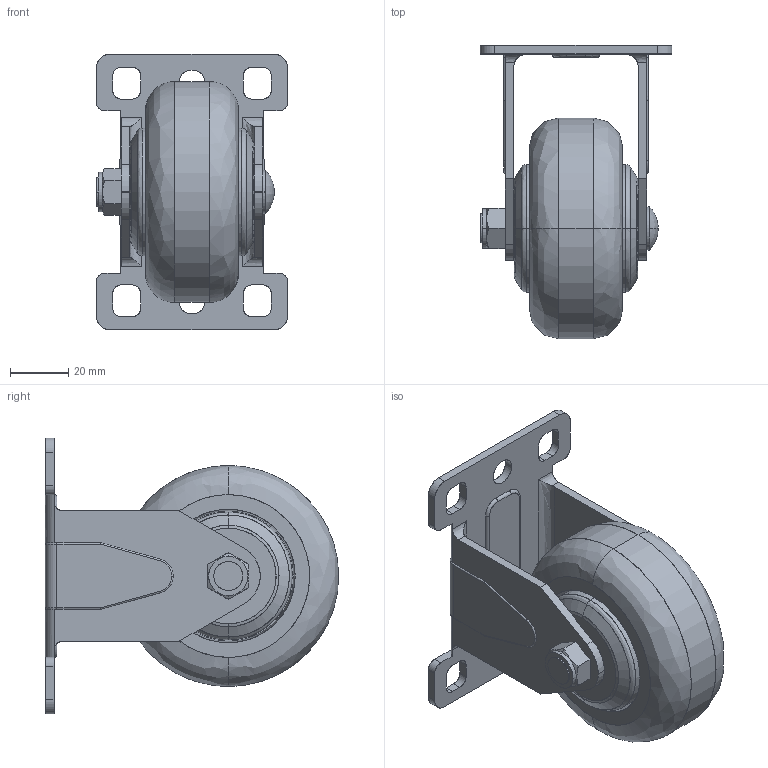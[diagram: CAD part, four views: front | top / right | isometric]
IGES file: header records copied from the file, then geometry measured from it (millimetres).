
Start section: SolidWorks IGES file using analytic representation for surfaces
Global section: file name: C:\Users\KHJ\Desktop\3D\LM5030-PU.IGS; native system: SolidWorks 2012; preprocessor: SolidWorks 2012; author: KHJ; date: 121128.000715; units: millimetre
Bounding box: 66 x 101 x 95 mm (x, y, z)
Surface area: 52306.9 mm2 (no closed solid volume)
Topology: 0 solids, 0 shells, 183 faces, 2788 edges, 2786 vertices
Faces by surface type: revolution 96, bspline 87
